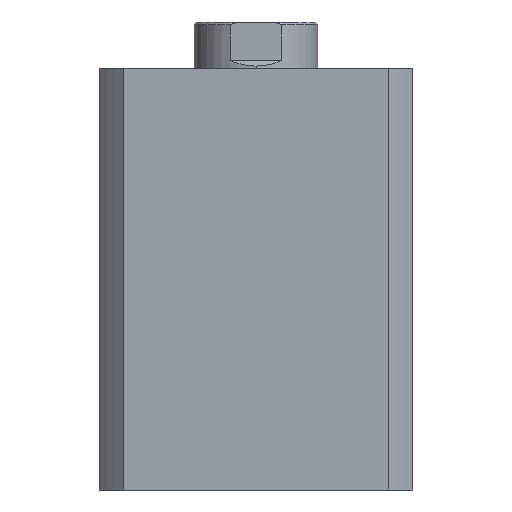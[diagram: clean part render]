
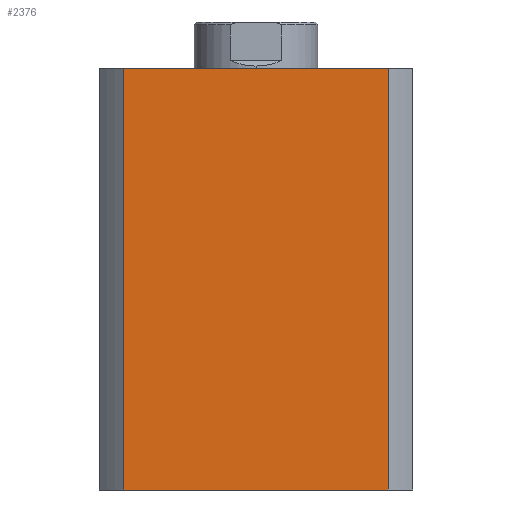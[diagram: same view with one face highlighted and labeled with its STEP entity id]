
A CAD part, left-side view. The second image highlights one B-rep face of the part: STEP entity #2376.
In plain terms, the highlighted planar face has unit normal (-1, 0, 0).
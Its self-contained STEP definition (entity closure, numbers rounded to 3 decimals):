
#229 = ORIENTED_EDGE ( 'NONE', *, *, #729, .F. ) ;
#232 = ORIENTED_EDGE ( 'NONE', *, *, #638, .F. ) ;
#233 = ORIENTED_EDGE ( 'NONE', *, *, #719, .T. ) ;
#238 = ORIENTED_EDGE ( 'NONE', *, *, #668, .T. ) ;
#495 = EDGE_LOOP ( 'NONE', ( #233, #232, #229, #238 ) ) ;
#638 = EDGE_CURVE ( 'NONE', #3415, #4636, #3465, .T. ) ;
#668 = EDGE_CURVE ( 'NONE', #3416, #4626, #3503, .T. ) ;
#719 = EDGE_CURVE ( 'NONE', #4626, #4636, #3573, .T. ) ;
#729 = EDGE_CURVE ( 'NONE', #3416, #3415, #3587, .T. ) ;
#945 = AXIS2_PLACEMENT_3D ( 'NONE', #3940, #3929, #3928 ) ;
#2376 = ADVANCED_FACE ( 'NONE', ( #4397 ), #3931, .F. ) ;
#2756 = CARTESIAN_POINT ( 'NONE',  ( -57., 0., 153. ) ) ;
#2757 = DIRECTION ( 'NONE',  ( 0., 0., -1. ) ) ;
#2758 = CARTESIAN_POINT ( 'NONE',  ( -57., -47.971, 153. ) ) ;
#2763 = DIRECTION ( 'NONE',  ( 0., -1., 0. ) ) ;
#2783 = DIRECTION ( 'NONE',  ( 0., -1., 0. ) ) ;
#2785 = CARTESIAN_POINT ( 'NONE',  ( -57., 0., 0. ) ) ;
#2971 = DIRECTION ( 'NONE',  ( 0., 0., -1. ) ) ;
#2972 = CARTESIAN_POINT ( 'NONE',  ( -57., 47.971, 153. ) ) ;
#3415 = VERTEX_POINT ( 'NONE', #5061 ) ;
#3416 = VERTEX_POINT ( 'NONE', #5024 ) ;
#3465 = LINE ( 'NONE', #2758, #3467 ) ;
#3467 = VECTOR ( 'NONE', #2757, 1000. ) ;
#3503 = LINE ( 'NONE', #2972, #3505 ) ;
#3505 = VECTOR ( 'NONE', #2971, 1000. ) ;
#3573 = LINE ( 'NONE', #2785, #3576 ) ;
#3576 = VECTOR ( 'NONE', #2783, 1000. ) ;
#3587 = LINE ( 'NONE', #2756, #3593 ) ;
#3593 = VECTOR ( 'NONE', #2763, 1000. ) ;
#3928 = DIRECTION ( 'NONE',  ( 0., 0., -1. ) ) ;
#3929 = DIRECTION ( 'NONE',  ( 1., 0., 0. ) ) ;
#3931 = PLANE ( 'NONE',  #945 ) ;
#3940 = CARTESIAN_POINT ( 'NONE',  ( -57., 0., 153. ) ) ;
#4397 = FACE_OUTER_BOUND ( 'NONE', #495, .T. ) ;
#4626 = VERTEX_POINT ( 'NONE', #4947 ) ;
#4636 = VERTEX_POINT ( 'NONE', #4949 ) ;
#4947 = CARTESIAN_POINT ( 'NONE',  ( -57., 47.971, 0. ) ) ;
#4949 = CARTESIAN_POINT ( 'NONE',  ( -57., -47.971, 0. ) ) ;
#5024 = CARTESIAN_POINT ( 'NONE',  ( -57., 47.971, 153. ) ) ;
#5061 = CARTESIAN_POINT ( 'NONE',  ( -57., -47.971, 153. ) ) ;
